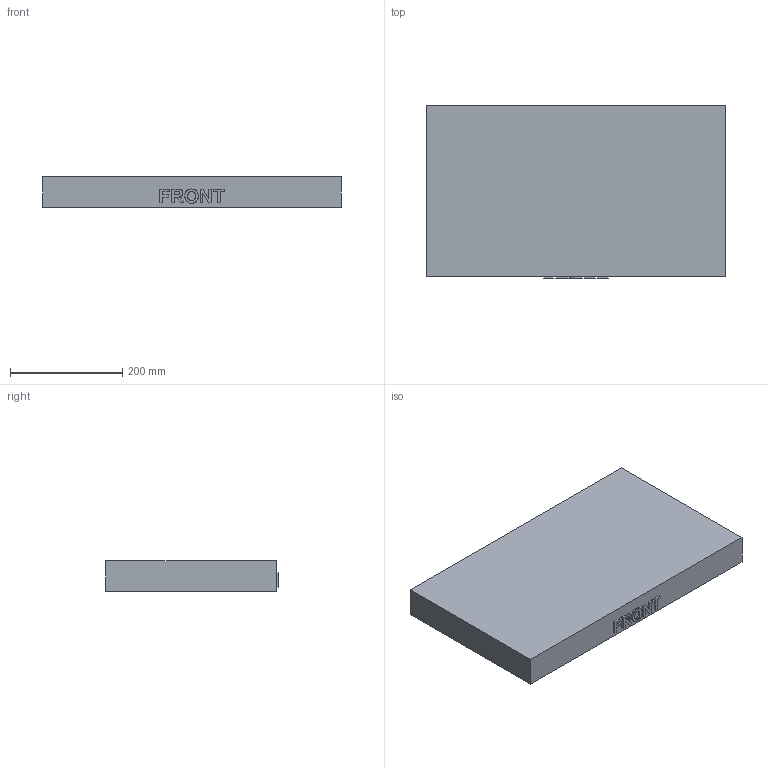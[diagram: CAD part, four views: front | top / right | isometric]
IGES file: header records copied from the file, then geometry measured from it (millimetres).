
Start section: Comment
Global section: file name: 2500-lid_internal_tub.igs; native system:  By UGS Corp.; preprocessor: XPlus GENERIC/IGES 3.0; author: Author; organization: Title; date: 20100513.102050; units: millimetre
Bounding box: 533.4 x 307.98 x 53.98 mm (x, y, z)
Surface area: 485013.4 mm2 (no closed solid volume)
Topology: 0 solids, 0 shells, 264 faces, 1410 edges, 1402 vertices
Faces by surface type: bspline 264
